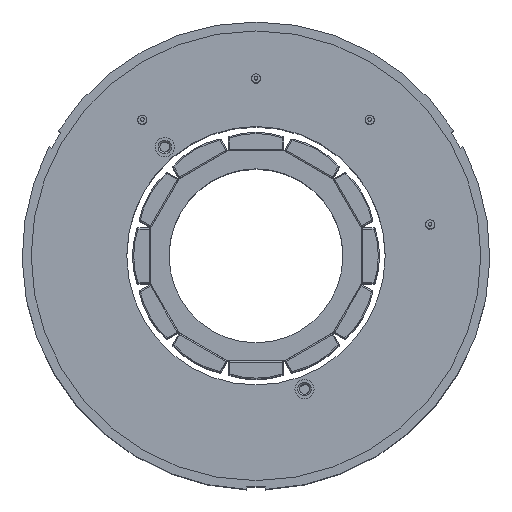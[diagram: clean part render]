
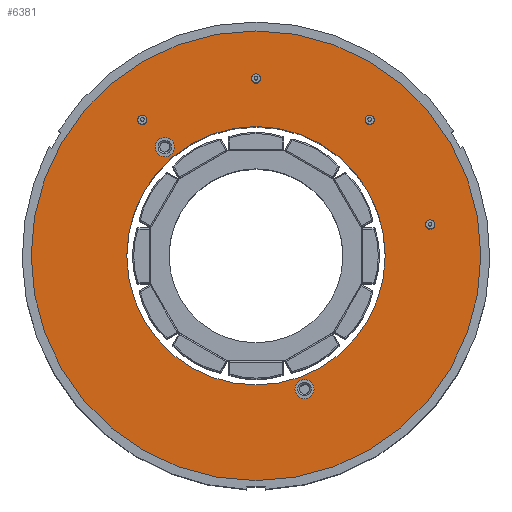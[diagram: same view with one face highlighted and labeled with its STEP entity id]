
A CAD part, top view. The second image highlights one B-rep face of the part: STEP entity #6381.
In plain terms, the highlighted planar face has unit normal (0, 0, 1).
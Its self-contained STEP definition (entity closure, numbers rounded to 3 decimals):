
#1342=PLANE('',#7373);
#2884=ORIENTED_EDGE('',*,*,#3983,.T.);
#2885=ORIENTED_EDGE('',*,*,#3985,.T.);
#2886=ORIENTED_EDGE('',*,*,#3986,.T.);
#2887=ORIENTED_EDGE('',*,*,#3987,.T.);
#2888=ORIENTED_EDGE('',*,*,#3988,.T.);
#2889=ORIENTED_EDGE('',*,*,#3989,.T.);
#2890=ORIENTED_EDGE('',*,*,#3990,.T.);
#2891=ORIENTED_EDGE('',*,*,#3991,.F.);
#3983=EDGE_CURVE('',#4701,#4701,#5085,.T.);
#3985=EDGE_CURVE('',#4703,#4703,#5087,.T.);
#3986=EDGE_CURVE('',#4704,#4704,#5088,.T.);
#3987=EDGE_CURVE('',#4705,#4705,#5089,.T.);
#3988=EDGE_CURVE('',#4706,#4706,#5090,.T.);
#3989=EDGE_CURVE('',#4707,#4707,#5091,.T.);
#3990=EDGE_CURVE('',#4708,#4708,#5092,.T.);
#3991=EDGE_CURVE('',#4709,#4709,#5093,.T.);
#4701=VERTEX_POINT('',#13977);
#4703=VERTEX_POINT('',#13983);
#4704=VERTEX_POINT('',#13987);
#4705=VERTEX_POINT('',#13989);
#4706=VERTEX_POINT('',#13991);
#4707=VERTEX_POINT('',#13993);
#4708=VERTEX_POINT('',#13995);
#4709=VERTEX_POINT('',#13997);
#5085=CIRCLE('',#7367,1.6);
#5087=CIRCLE('',#7371,1.6);
#5088=CIRCLE('',#7374,0.5);
#5089=CIRCLE('',#7375,0.5);
#5090=CIRCLE('',#7376,0.5);
#5091=CIRCLE('',#7377,0.5);
#5092=CIRCLE('',#7378,21.55);
#5093=CIRCLE('',#7379,37.5);
#5495=EDGE_LOOP('',(#2884));
#5496=EDGE_LOOP('',(#2885));
#5497=EDGE_LOOP('',(#2886));
#5498=EDGE_LOOP('',(#2887));
#5499=EDGE_LOOP('',(#2888));
#5500=EDGE_LOOP('',(#2889));
#5501=EDGE_LOOP('',(#2890));
#5502=EDGE_LOOP('',(#2891));
#5908=FACE_BOUND('',#5495,.T.);
#5909=FACE_BOUND('',#5496,.T.);
#5910=FACE_BOUND('',#5497,.T.);
#5911=FACE_BOUND('',#5498,.T.);
#5912=FACE_BOUND('',#5499,.T.);
#5913=FACE_BOUND('',#5500,.T.);
#5914=FACE_BOUND('',#5501,.T.);
#5915=FACE_BOUND('',#5502,.T.);
#6381=ADVANCED_FACE('',(#5908,#5909,#5910,#5911,#5912,#5913,#5914,#5915),
#1342,.F.);
#7367=AXIS2_PLACEMENT_3D('',#13976,#9136,#9137);
#7371=AXIS2_PLACEMENT_3D('',#13982,#9144,#9145);
#7373=AXIS2_PLACEMENT_3D('',#13985,#9148,#9149);
#7374=AXIS2_PLACEMENT_3D('',#13986,#9150,#9151);
#7375=AXIS2_PLACEMENT_3D('',#13988,#9152,#9153);
#7376=AXIS2_PLACEMENT_3D('',#13990,#9154,#9155);
#7377=AXIS2_PLACEMENT_3D('',#13992,#9156,#9157);
#7378=AXIS2_PLACEMENT_3D('',#13994,#9158,#9159);
#7379=AXIS2_PLACEMENT_3D('',#13996,#9160,#9161);
#9136=DIRECTION('',(0.,0.,-1.));
#9137=DIRECTION('',(0.,-1.,0.));
#9144=DIRECTION('',(0.,0.,-1.));
#9145=DIRECTION('',(0.,-1.,0.));
#9148=DIRECTION('',(0.,0.,-1.));
#9149=DIRECTION('',(-1.,0.,0.));
#9150=DIRECTION('',(0.,0.,-1.));
#9151=DIRECTION('',(0.,-1.,0.));
#9152=DIRECTION('',(0.,0.,-1.));
#9153=DIRECTION('',(0.,-1.,0.));
#9154=DIRECTION('',(0.,0.,-1.));
#9155=DIRECTION('',(0.,-1.,0.));
#9156=DIRECTION('',(0.,0.,-1.));
#9157=DIRECTION('',(0.,-1.,0.));
#9158=DIRECTION('',(0.,0.,-1.));
#9159=DIRECTION('',(1.,0.,0.));
#9160=DIRECTION('',(0.,0.,-1.));
#9161=DIRECTION('',(1.,0.,0.));
#13976=CARTESIAN_POINT('',(8.096,-22.243,31.25));
#13977=CARTESIAN_POINT('',(8.096,-23.843,31.25));
#13982=CARTESIAN_POINT('',(-15.215,18.132,31.25));
#13983=CARTESIAN_POINT('',(-15.215,16.532,31.25));
#13985=CARTESIAN_POINT('',(0.,0.,31.25));
#13986=CARTESIAN_POINT('',(-18.962,22.598,31.25));
#13987=CARTESIAN_POINT('',(-18.962,22.098,31.25));
#13988=CARTESIAN_POINT('',(29.052,5.123,31.25));
#13989=CARTESIAN_POINT('',(29.052,4.623,31.25));
#13990=CARTESIAN_POINT('',(18.962,22.598,31.25));
#13991=CARTESIAN_POINT('',(18.962,22.098,31.25));
#13992=CARTESIAN_POINT('',(0.,29.5,31.25));
#13993=CARTESIAN_POINT('',(0.,29.,31.25));
#13994=CARTESIAN_POINT('',(0.,0.,31.25));
#13995=CARTESIAN_POINT('',(21.55,0.,31.25));
#13996=CARTESIAN_POINT('',(0.,0.,31.25));
#13997=CARTESIAN_POINT('',(37.5,0.,31.25));
